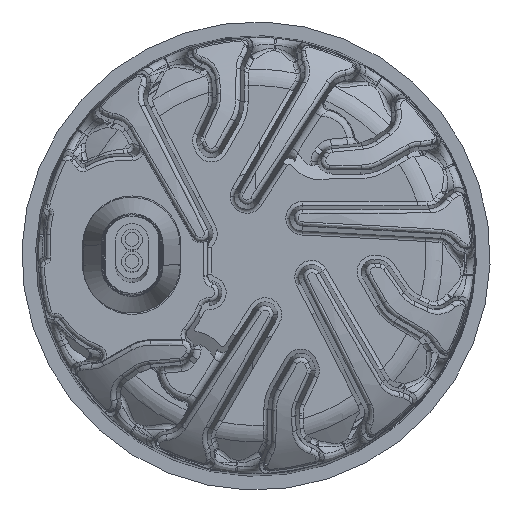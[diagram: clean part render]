
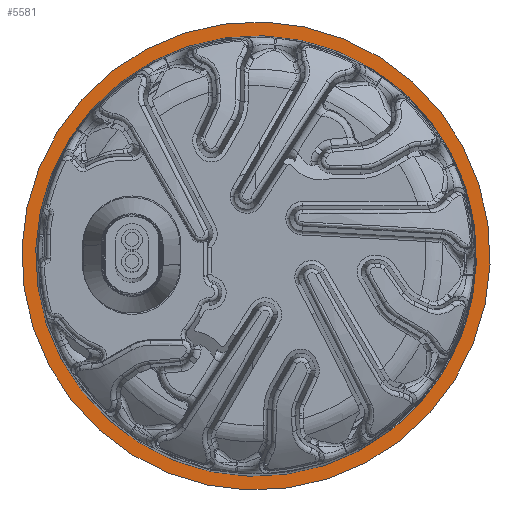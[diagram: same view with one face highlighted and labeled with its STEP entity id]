
A CAD part, top view. The second image highlights one B-rep face of the part: STEP entity #5581.
In plain terms, the highlighted planar face has unit normal (0, 0, 1).
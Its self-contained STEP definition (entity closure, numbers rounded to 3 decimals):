
#1239 = AXIS2_PLACEMENT_3D ( 'NONE', #11997, #3512, #20996 ) ;
#1421 = FACE_OUTER_BOUND ( 'NONE', #11562, .T. ) ;
#2924 = VERTEX_POINT ( 'NONE', #36050 ) ;
#3512 = DIRECTION ( 'NONE',  ( 0., 0., -1. ) ) ;
#5291 = CARTESIAN_POINT ( 'NONE',  ( 0., 0., -18.5 ) ) ;
#5581 = ADVANCED_FACE ( 'NONE', ( #19570, #1421 ), #13566, .T. ) ;
#5673 = CIRCLE ( 'NONE', #1239, 17. ) ;
#6210 = CIRCLE ( 'NONE', #18535, 16. ) ;
#7525 = DIRECTION ( 'NONE',  ( 0., 0., 1. ) ) ;
#8234 = DIRECTION ( 'NONE',  ( 0.999, -0.035, 0. ) ) ;
#8461 = CARTESIAN_POINT ( 'NONE',  ( -15.99, 0.558, -18.5 ) ) ;
#10432 = EDGE_CURVE ( 'NONE', #23330, #2924, #26255, .T. ) ;
#10595 = CIRCLE ( 'NONE', #32381, 17. ) ;
#10941 = AXIS2_PLACEMENT_3D ( 'NONE', #5291, #20260, #8234 ) ;
#11205 = CARTESIAN_POINT ( 'NONE',  ( 0., 0., -18.5 ) ) ;
#11562 = EDGE_LOOP ( 'NONE', ( #15839, #31931 ) ) ;
#11997 = CARTESIAN_POINT ( 'NONE',  ( 0., 0., -18.5 ) ) ;
#13448 = CARTESIAN_POINT ( 'NONE',  ( 0., 0., -18.5 ) ) ;
#13566 = PLANE ( 'NONE',  #22501 ) ;
#13965 = EDGE_CURVE ( 'NONE', #2924, #23330, #6210, .T. ) ;
#14652 = EDGE_LOOP ( 'NONE', ( #32429, #25189 ) ) ;
#15839 = ORIENTED_EDGE ( 'NONE', *, *, #35705, .F. ) ;
#17021 = DIRECTION ( 'NONE',  ( -0.999, 0.035, 0. ) ) ;
#18535 = AXIS2_PLACEMENT_3D ( 'NONE', #33434, #22043, #36629 ) ;
#19032 = DIRECTION ( 'NONE',  ( 0.999, -0.035, 0. ) ) ;
#19570 = FACE_BOUND ( 'NONE', #14652, .T. ) ;
#20260 = DIRECTION ( 'NONE',  ( 0., 0., 1. ) ) ;
#20996 = DIRECTION ( 'NONE',  ( -0.999, 0.035, 0. ) ) ;
#22043 = DIRECTION ( 'NONE',  ( 0., 0., 1. ) ) ;
#22501 = AXIS2_PLACEMENT_3D ( 'NONE', #13448, #7525, #19032 ) ;
#23330 = VERTEX_POINT ( 'NONE', #8461 ) ;
#23670 = VERTEX_POINT ( 'NONE', #29030 ) ;
#25189 = ORIENTED_EDGE ( 'NONE', *, *, #10432, .F. ) ;
#26255 = CIRCLE ( 'NONE', #10941, 16. ) ;
#28141 = VERTEX_POINT ( 'NONE', #28634 ) ;
#28634 = CARTESIAN_POINT ( 'NONE',  ( -16.99, 0.593, -18.5 ) ) ;
#29030 = CARTESIAN_POINT ( 'NONE',  ( 16.99, -0.593, -18.5 ) ) ;
#31931 = ORIENTED_EDGE ( 'NONE', *, *, #32692, .F. ) ;
#32381 = AXIS2_PLACEMENT_3D ( 'NONE', #11205, #34290, #17021 ) ;
#32429 = ORIENTED_EDGE ( 'NONE', *, *, #13965, .F. ) ;
#32692 = EDGE_CURVE ( 'NONE', #23670, #28141, #5673, .T. ) ;
#33434 = CARTESIAN_POINT ( 'NONE',  ( 0., 0., -18.5 ) ) ;
#34290 = DIRECTION ( 'NONE',  ( 0., 0., -1. ) ) ;
#35705 = EDGE_CURVE ( 'NONE', #28141, #23670, #10595, .T. ) ;
#36050 = CARTESIAN_POINT ( 'NONE',  ( 15.99, -0.558, -18.5 ) ) ;
#36629 = DIRECTION ( 'NONE',  ( 0.999, -0.035, 0. ) ) ;
